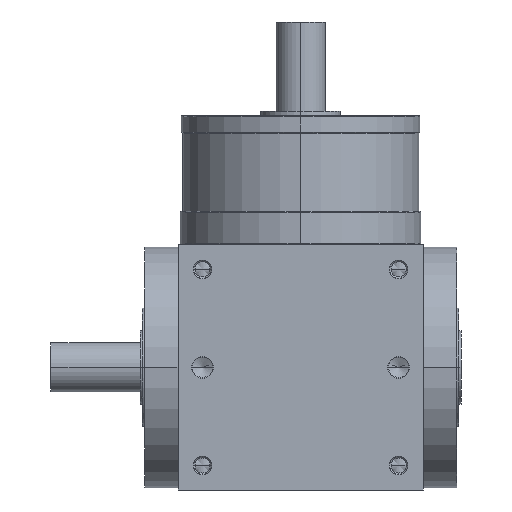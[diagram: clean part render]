
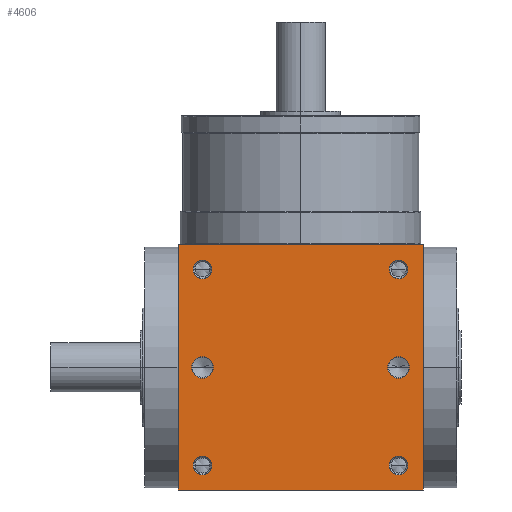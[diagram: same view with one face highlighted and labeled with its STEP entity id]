
A CAD part, front view. The second image highlights one B-rep face of the part: STEP entity #4606.
In plain terms, the highlighted planar face has unit normal (0, -1, 0).
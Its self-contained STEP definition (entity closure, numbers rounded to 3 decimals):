
#5=DIRECTION('',(1.,0.,0.));
#6=VECTOR('',#5,110.);
#7=CARTESIAN_POINT('',(-55.,-55.,-55.));
#8=LINE('',#7,#6);
#155=DIRECTION('',(0.,0.,1.));
#156=VECTOR('',#155,110.);
#157=CARTESIAN_POINT('',(55.,-55.,-55.));
#158=LINE('',#157,#156);
#209=DIRECTION('',(0.,0.,1.));
#210=VECTOR('',#209,110.);
#211=CARTESIAN_POINT('',(-55.,-55.,-55.));
#212=LINE('',#211,#210);
#213=CARTESIAN_POINT('',(44.,-55.,44.));
#214=DIRECTION('',(0.,1.,0.));
#215=DIRECTION('',(-1.,0.,0.));
#216=AXIS2_PLACEMENT_3D('',#213,#214,#215);
#218=CARTESIAN_POINT('',(44.,-55.,44.));
#219=DIRECTION('',(0.,1.,0.));
#220=DIRECTION('',(1.,0.,0.));
#221=AXIS2_PLACEMENT_3D('',#218,#219,#220);
#223=CARTESIAN_POINT('',(-44.,-55.,44.));
#224=DIRECTION('',(0.,1.,0.));
#225=DIRECTION('',(-1.,0.,0.));
#226=AXIS2_PLACEMENT_3D('',#223,#224,#225);
#228=CARTESIAN_POINT('',(-44.,-55.,44.));
#229=DIRECTION('',(0.,1.,0.));
#230=DIRECTION('',(1.,0.,0.));
#231=AXIS2_PLACEMENT_3D('',#228,#229,#230);
#233=CARTESIAN_POINT('',(44.,-55.,-44.));
#234=DIRECTION('',(0.,1.,0.));
#235=DIRECTION('',(-1.,0.,0.));
#236=AXIS2_PLACEMENT_3D('',#233,#234,#235);
#238=CARTESIAN_POINT('',(44.,-55.,-44.));
#239=DIRECTION('',(0.,1.,0.));
#240=DIRECTION('',(1.,0.,0.));
#241=AXIS2_PLACEMENT_3D('',#238,#239,#240);
#243=CARTESIAN_POINT('',(-44.,-55.,-44.));
#244=DIRECTION('',(0.,1.,0.));
#245=DIRECTION('',(-1.,0.,0.));
#246=AXIS2_PLACEMENT_3D('',#243,#244,#245);
#248=CARTESIAN_POINT('',(-44.,-55.,-44.));
#249=DIRECTION('',(0.,1.,0.));
#250=DIRECTION('',(1.,0.,0.));
#251=AXIS2_PLACEMENT_3D('',#248,#249,#250);
#253=CARTESIAN_POINT('',(-44.,-55.,0.));
#254=DIRECTION('',(0.,1.,0.));
#255=DIRECTION('',(1.,0.,0.));
#256=AXIS2_PLACEMENT_3D('',#253,#254,#255);
#258=CARTESIAN_POINT('',(-44.,-55.,0.));
#259=DIRECTION('',(0.,1.,0.));
#260=DIRECTION('',(-1.,0.,0.));
#261=AXIS2_PLACEMENT_3D('',#258,#259,#260);
#263=CARTESIAN_POINT('',(44.,-55.,0.));
#264=DIRECTION('',(0.,1.,0.));
#265=DIRECTION('',(1.,0.,0.));
#266=AXIS2_PLACEMENT_3D('',#263,#264,#265);
#268=CARTESIAN_POINT('',(44.,-55.,0.));
#269=DIRECTION('',(0.,1.,0.));
#270=DIRECTION('',(-1.,0.,0.));
#271=AXIS2_PLACEMENT_3D('',#268,#269,#270);
#285=DIRECTION('',(1.,0.,0.));
#286=VECTOR('',#285,110.);
#287=CARTESIAN_POINT('',(-55.,-55.,55.));
#288=LINE('',#287,#286);
#3690=CARTESIAN_POINT('',(-55.,-55.,-55.));
#3692=VERTEX_POINT('',#3690);
#3693=CARTESIAN_POINT('',(55.,-55.,-55.));
#3694=VERTEX_POINT('',#3693);
#3698=CARTESIAN_POINT('',(-55.,-55.,55.));
#3700=VERTEX_POINT('',#3698);
#3701=CARTESIAN_POINT('',(55.,-55.,55.));
#3702=VERTEX_POINT('',#3701);
#3869=CARTESIAN_POINT('',(39.8,-55.,44.));
#3870=CARTESIAN_POINT('',(48.2,-55.,44.));
#3871=VERTEX_POINT('',#3869);
#3872=VERTEX_POINT('',#3870);
#3877=CARTESIAN_POINT('',(-48.2,-55.,44.));
#3878=CARTESIAN_POINT('',(-39.8,-55.,44.));
#3879=VERTEX_POINT('',#3877);
#3880=VERTEX_POINT('',#3878);
#3885=CARTESIAN_POINT('',(39.8,-55.,-44.));
#3886=CARTESIAN_POINT('',(48.2,-55.,-44.));
#3887=VERTEX_POINT('',#3885);
#3888=VERTEX_POINT('',#3886);
#3893=CARTESIAN_POINT('',(-48.2,-55.,-44.));
#3894=CARTESIAN_POINT('',(-39.8,-55.,-44.));
#3895=VERTEX_POINT('',#3893);
#3896=VERTEX_POINT('',#3894);
#4235=CARTESIAN_POINT('',(-39.15,-55.,
0.));
#4236=CARTESIAN_POINT('',(-48.85,-55.,0.));
#4237=VERTEX_POINT('',#4235);
#4238=VERTEX_POINT('',#4236);
#4243=CARTESIAN_POINT('',(48.85,-55.,0.));
#4244=CARTESIAN_POINT('',(39.15,-55.,0.));
#4245=VERTEX_POINT('',#4243);
#4246=VERTEX_POINT('',#4244);
#4558=CARTESIAN_POINT('',(-55.,-55.,-55.));
#4559=DIRECTION('',(0.,-1.,0.));
#4560=DIRECTION('',(1.,0.,0.));
#4561=AXIS2_PLACEMENT_3D('',#4558,#4559,#4560);
#4562=PLANE('',#4561);
#4563=ORIENTED_EDGE('',*,*,#4398,.F.);
#4564=ORIENTED_EDGE('',*,*,#4441,.T.);
#4566=ORIENTED_EDGE('',*,*,#4565,.T.);
#4567=ORIENTED_EDGE('',*,*,#4520,.F.);
#4568=EDGE_LOOP('',(#4563,#4564,#4566,#4567));
#4569=FACE_OUTER_BOUND('',#4568,.F.);
#4571=ORIENTED_EDGE('',*,*,#4570,.F.);
#4573=ORIENTED_EDGE('',*,*,#4572,.F.);
#4574=EDGE_LOOP('',(#4571,#4573));
#4575=FACE_BOUND('',#4574,.F.);
#4577=ORIENTED_EDGE('',*,*,#4576,.F.);
#4579=ORIENTED_EDGE('',*,*,#4578,.F.);
#4580=EDGE_LOOP('',(#4577,#4579));
#4581=FACE_BOUND('',#4580,.F.);
#4583=ORIENTED_EDGE('',*,*,#4582,.F.);
#4585=ORIENTED_EDGE('',*,*,#4584,.F.);
#4586=EDGE_LOOP('',(#4583,#4585));
#4587=FACE_BOUND('',#4586,.F.);
#4589=ORIENTED_EDGE('',*,*,#4588,.F.);
#4591=ORIENTED_EDGE('',*,*,#4590,.F.);
#4592=EDGE_LOOP('',(#4589,#4591));
#4593=FACE_BOUND('',#4592,.F.);
#4595=ORIENTED_EDGE('',*,*,#4594,.F.);
#4597=ORIENTED_EDGE('',*,*,#4596,.F.);
#4598=EDGE_LOOP('',(#4595,#4597));
#4599=FACE_BOUND('',#4598,.F.);
#4601=ORIENTED_EDGE('',*,*,#4600,.F.);
#4603=ORIENTED_EDGE('',*,*,#4602,.F.);
#4604=EDGE_LOOP('',(#4601,#4603));
#4605=FACE_BOUND('',#4604,.F.);
#4606=ADVANCED_FACE('',(#4569,#4575,#4581,#4587,#4593,#4599,#4605),#4562,.T.);
#217=CIRCLE('',#216,4.2);
#222=CIRCLE('',#221,4.2);
#227=CIRCLE('',#226,4.2);
#232=CIRCLE('',#231,4.2);
#237=CIRCLE('',#236,4.2);
#242=CIRCLE('',#241,4.2);
#247=CIRCLE('',#246,4.2);
#252=CIRCLE('',#251,4.2);
#257=CIRCLE('',#256,4.85);
#262=CIRCLE('',#261,4.85);
#267=CIRCLE('',#266,4.85);
#272=CIRCLE('',#271,4.85);
#4398=EDGE_CURVE('',#3692,#3694,#8,.T.);
#4441=EDGE_CURVE('',#3692,#3700,#212,.T.);
#4520=EDGE_CURVE('',#3694,#3702,#158,.T.);
#4565=EDGE_CURVE('',#3700,#3702,#288,.T.);
#4570=EDGE_CURVE('',#3871,#3872,#217,.T.);
#4572=EDGE_CURVE('',#3872,#3871,#222,.T.);
#4576=EDGE_CURVE('',#3879,#3880,#227,.T.);
#4578=EDGE_CURVE('',#3880,#3879,#232,.T.);
#4582=EDGE_CURVE('',#3887,#3888,#237,.T.);
#4584=EDGE_CURVE('',#3888,#3887,#242,.T.);
#4588=EDGE_CURVE('',#3895,#3896,#247,.T.);
#4590=EDGE_CURVE('',#3896,#3895,#252,.T.);
#4594=EDGE_CURVE('',#4237,#4238,#257,.T.);
#4596=EDGE_CURVE('',#4238,#4237,#262,.T.);
#4600=EDGE_CURVE('',#4245,#4246,#267,.T.);
#4602=EDGE_CURVE('',#4246,#4245,#272,.T.);
